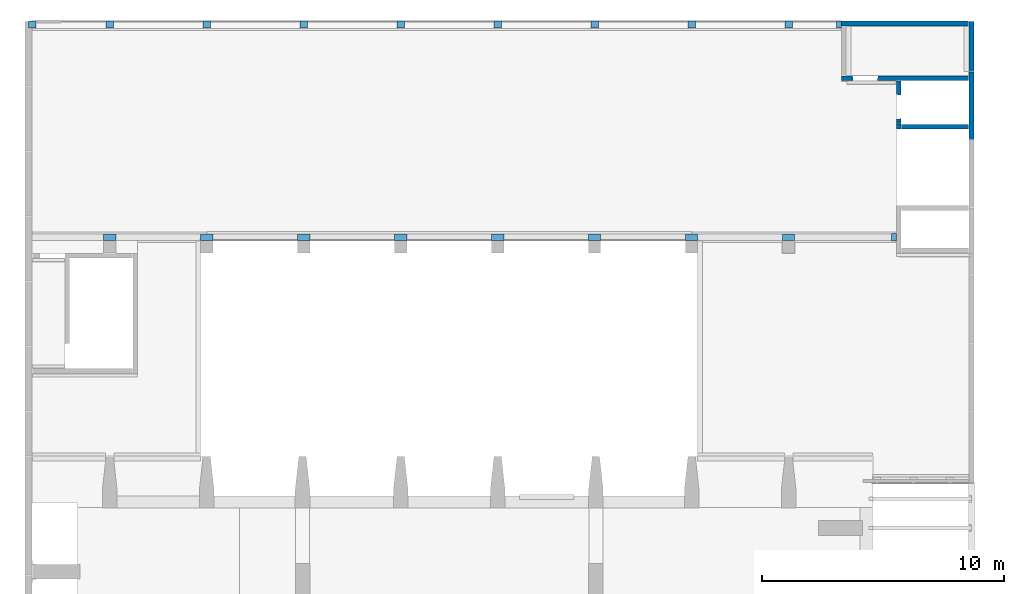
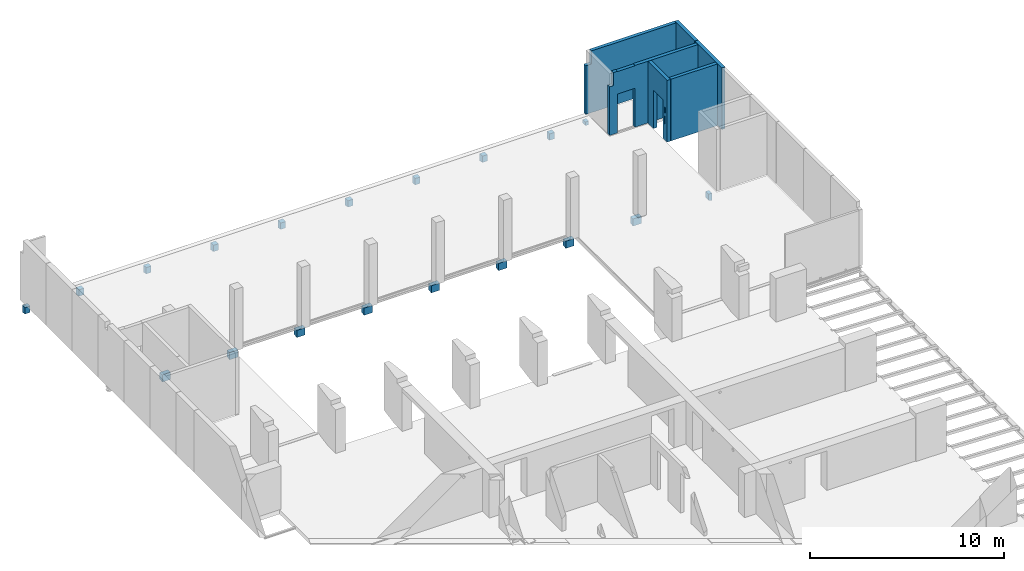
# One storey, part 22 of 27: 25 walls, 8 openings.
"""IFC2X3 building model written with IfcOpenShell, lengths in millimetres."""

import ifcopenshell
import ifcopenshell.guid

model = None  # the IFC model being written
_history = None  # IfcOwnerHistory: only IFC2X3 demands one
_inside = {}  # id of a spatial element -> (the spatial element, [elements in it])
_under = {}  # id of a project, library or spatial element -> (it, [spatial elements below it])
_declared = {}  # id of a project -> (the project, [libraries it declares])
_typed = {}  # id of a type object -> (the type object, [elements of that type])
_made_of = {}  # id of a material, layer set ... -> (it, [elements and type objects made of it])


def new_model(schema):
    """Start an empty IFC model of exactly this schema.

    Asked for "IFC4X3", IfcOpenShell would pick the latest addendum, in which some entities
    have other attributes; the version numbers below select the first issue.
    IFC2X3 requires an IfcOwnerHistory on every rooted entity: one is made here for all.
    """
    global model, _history
    if schema == "IFC4X3":
        model = ifcopenshell.file(schema_version=(4, 3, 0, 0))
    else:
        model = ifcopenshell.file(schema=schema)
    _inside.clear()
    _under.clear()
    _declared.clear()
    _typed.clear()
    _made_of.clear()
    _history = None
    if model.schema == "IFC2X3":
        org = make("IfcOrganization", Name="unknown")
        user = make(
            "IfcPersonAndOrganization",
            ThePerson=make("IfcPerson", FamilyName="unknown"),
            TheOrganization=org,
        )
        app = make(
            "IfcApplication",
            ApplicationDeveloper=org,
            Version="unknown",
            ApplicationFullName="unknown",
            ApplicationIdentifier="unknown",
        )
        _history = make(
            "IfcOwnerHistory",
            OwningUser=user,
            OwningApplication=app,
            ChangeAction="ADDED",
            CreationDate=0,
        )
    return model


def make(cls, **values):
    """One entity of the class cls with the attributes given. An attribute that is None is left unset."""
    return model.create_entity(
        cls, **{name: value for name, value in values.items() if value is not None}
    )


def entity(cls, *values):
    """Any entity or typed value of the class cls, its attributes in the order of the schema. None: left unset."""
    e = model.create_entity(cls)
    for i, value in enumerate(values):
        if value is not None:
            e[i] = value
    return e


def rooted(cls, **values):
    """An entity with a GlobalId (a new one), such as an element, a storey or a relation."""
    return make(cls, GlobalId=ifcopenshell.guid.new(), OwnerHistory=_history, **values)


def si_unit(unit_type, name, prefix=None):
    """IfcSIUnit, for example si_unit("LENGTHUNIT", "METRE", prefix="MILLI")."""
    return make("IfcSIUnit", UnitType=unit_type, Prefix=prefix, Name=name)


def converted_unit(unit_type, name, factor, base, dimensions=None, offset=None):
    """IfcConversionBasedUnit, such as the inch: factor (a typed value) times the base unit."""
    return make(
        "IfcConversionBasedUnit"
        if offset is None
        else "IfcConversionBasedUnitWithOffset",
        ConversionOffset=offset,
        Dimensions=None
        if dimensions is None
        else entity("IfcDimensionalExponents", *dimensions),
        UnitType=unit_type,
        Name=name,
        ConversionFactor=make(
            "IfcMeasureWithUnit", ValueComponent=factor, UnitComponent=base
        ),
    )


def derived_unit(unit_type, elements):
    """IfcDerivedUnit: a product of units, each with its exponent."""
    return make(
        "IfcDerivedUnit",
        Elements=[
            make("IfcDerivedUnitElement", Unit=unit, Exponent=power)
            for unit, power in elements
        ],
        UnitType=unit_type,
    )


def assignment(units):
    """IfcUnitAssignment: the units of a project."""
    return None if units is None else make("IfcUnitAssignment", Units=units)


def point(xyz):
    """IfcCartesianPoint."""
    return None if xyz is None else make("IfcCartesianPoint", Coordinates=xyz)


def direction(xyz):
    """IfcDirection."""
    return None if xyz is None else make("IfcDirection", DirectionRatios=xyz)


def frame(location, z_axis=None, x_axis=None):
    """IfcAxis2Placement3D, a coordinate frame: its origin and axes. An axis left out is left unset."""
    return make(
        "IfcAxis2Placement3D",
        Location=point(location),
        Axis=direction(z_axis),
        RefDirection=direction(x_axis),
    )


def frame_2d(location, x_axis=None):
    """IfcAxis2Placement2D, a coordinate frame in the plane: its origin and x axis."""
    return make(
        "IfcAxis2Placement2D", Location=point(location), RefDirection=direction(x_axis)
    )


def origin():
    """The frame at (0, 0, 0) with its axes left unset."""
    return frame((0.0, 0.0, 0.0))


def origin_2d_with_axis():
    """The frame at (0, 0) in the plane with the x axis (1, 0) written out."""
    return frame_2d((0.0, 0.0), x_axis=(1.0, 0.0))


def place(relative_to, where):
    """IfcLocalPlacement: puts the frame where relative to a parent placement (None: the world)."""
    return make(
        "IfcLocalPlacement", PlacementRelTo=relative_to, RelativePlacement=where
    )


def context(
    kind, dimensions, precision=None, world=None, true_north=None, identifier=None
):
    """IfcGeometricRepresentationContext, for example the 3D "Model" context."""
    return make(
        "IfcGeometricRepresentationContext",
        ContextIdentifier=identifier,
        ContextType=kind,
        CoordinateSpaceDimension=dimensions,
        Precision=precision,
        WorldCoordinateSystem=world,
        TrueNorth=true_north,
    )


def subcontext(parent, identifier, kind, view, scale=None):
    """IfcGeometricRepresentationSubContext, for example "Body" below "Model"."""
    return make(
        "IfcGeometricRepresentationSubContext",
        ContextIdentifier=identifier,
        ContextType=kind,
        ParentContext=parent,
        TargetScale=scale,
        TargetView=view,
    )


def project(units=None, contexts=None):
    """IfcProject with its units and contexts."""
    return rooted(
        "IfcProject",
        Name="project",
        RepresentationContexts=contexts,
        UnitsInContext=assignment(units),
    )


def spatial(cls, under=None, at=None, **own):
    """A site, building, storey or space (cls), placed at a placement, below another one or the project."""
    s = rooted(cls, ObjectPlacement=at, **own)
    if under is not None:
        _under.setdefault(under.id(), (under, []))[1].append(s)
    return s


def profile(cls, at=None, kind="AREA", **sizes):
    """A parametric profile (cls). Its sizes go by their IFC names, for example OverallWidth=200.0."""
    return make(cls, ProfileType=kind, Position=at, **sizes)


def rectangle(**sizes):
    """IfcRectangleProfileDef."""
    return profile("IfcRectangleProfileDef", **sizes)


def extrude(swept, where, along, depth):
    """IfcExtrudedAreaSolid: the profile swept, set in the frame where, extruded along a direction by depth."""
    return make(
        "IfcExtrudedAreaSolid",
        SweptArea=swept,
        Position=where,
        ExtrudedDirection=direction(along),
        Depth=depth,
    )


def faces_of(points, faces, orient=None, outer=None):
    """IfcFace entities. A face is a list of loops; a loop is a list of indices into points, from 0.

    orient and outer hold one flag for each loop. By default every Orientation is true, the
    first loop of a face is its IfcFaceOuterBound and the others are IfcFaceBound.
    """
    made = []
    for i, loops in enumerate(faces):
        bounds = []
        for j, loop in enumerate(loops):
            is_outer = j == 0 if outer is None else outer[i][j]
            bounds.append(
                make(
                    "IfcFaceOuterBound" if is_outer else "IfcFaceBound",
                    Bound=make("IfcPolyLoop", Polygon=[points[k] for k in loop]),
                    Orientation=True if orient is None else orient[i][j],
                )
            )
        made.append(make("IfcFace", Bounds=bounds))
    return made


def faceted_brep(points, faces, orient=None, outer=None, voids=None):
    """IfcFacetedBrep: a solid bounded by flat faces; with voids (closed shells), ...WithVoids."""
    shared = [point(p) for p in points]
    hull = make("IfcClosedShell", CfsFaces=faces_of(shared, faces, orient, outer))
    if voids is None:
        return make("IfcFacetedBrep", Outer=hull)
    return make(
        "IfcFacetedBrepWithVoids",
        Outer=hull,
        Voids=[
            make(cls, CfsFaces=faces_of(shared, fs, o, b)) for cls, fs, o, b in voids
        ],
    )


def shape(context_of_items, identifier, shape_type, items):
    """IfcShapeRepresentation: the items that make up one representation, for example the "Body"."""
    return make(
        "IfcShapeRepresentation",
        ContextOfItems=context_of_items,
        RepresentationIdentifier=identifier,
        RepresentationType=shape_type,
        Items=items,
    )


def material(Name=None, Category=None):
    """IfcMaterial."""
    return make("IfcMaterial", Name=Name, Category=Category)


def layer(
    of_material, thickness, ventilated=None, Name=None, Category=None, Priority=None
):
    """IfcMaterialLayer: one layer of a wall or slab, of a material (None: an air gap)."""
    return make(
        "IfcMaterialLayer",
        Material=of_material,
        LayerThickness=thickness,
        IsVentilated=ventilated,
        Name=Name,
        Category=Category,
        Priority=Priority,
    )


def layer_set(layers, Name=None):
    """IfcMaterialLayerSet."""
    return make("IfcMaterialLayerSet", MaterialLayers=layers, LayerSetName=Name)


def layer_usage(for_layer_set, set_direction, sense, offset, extent=None):
    """IfcMaterialLayerSetUsage: how a layer set lies in its element."""
    return make(
        "IfcMaterialLayerSetUsage",
        ForLayerSet=for_layer_set,
        LayerSetDirection=set_direction,
        DirectionSense=sense,
        OffsetFromReferenceLine=offset,
        ReferenceExtent=extent,
    )


def made_of(thing, what):
    """Note that an element or type object is made of a material, layer set ...; save() writes the relation."""
    if what is not None:
        _made_of.setdefault(what.id(), (what, []))[1].append(thing)
    return thing


def type_object(cls, material=None, **own):
    """A type object (cls), such as IfcWallType, which elements share."""
    return made_of(rooted(cls, **own), material)


def element(
    cls,
    number,
    at=None,
    inside=None,
    cuts=None,
    type_object=None,
    material=None,
    context=None,
    identifier="Body",
    shape_type=None,
    held_by="IfcProductDefinitionShape",
    body=None,
    shapes=None,
    **own,
):
    """One element of the class cls, such as IfcWall. Its Tag is "e" and its number.

    at: its placement. inside: the storey or other place that contains it. cuts: it is an
    opening in that element (IfcRelVoidsElement). A single representation is given by context,
    identifier, shape_type and body (its items); several are given by shapes. held_by: the class
    of the entity that holds the representations. save() writes the other relations.
    """
    e = rooted(cls, Tag="e%d" % number, ObjectPlacement=at, **own)
    if body is not None:
        shapes = [shape(context, identifier, shape_type, body)]
    if shapes is not None:
        e.Representation = make(held_by, Representations=shapes)
    if inside is not None:
        _inside.setdefault(inside.id(), (inside, []))[1].append(e)
    if cuts is not None:
        rooted(
            "IfcRelVoidsElement", RelatingBuildingElement=cuts, RelatedOpeningElement=e
        )
    if type_object is not None:
        _typed.setdefault(type_object.id(), (type_object, []))[1].append(e)
    return made_of(e, material)


def aggregate(whole, parts):
    """IfcRelAggregates: a whole, such as a stair, and the parts it consists of."""
    return rooted("IfcRelAggregates", RelatingObject=whole, RelatedObjects=parts)


def save(model, path):
    """Write the relations noted so far, then the file.

    IfcRelAggregates (storeys below a building ...), IfcRelContainedInSpatialStructure (elements
    in a storey), IfcRelDefinesByType, IfcRelAssociatesMaterial and IfcRelDeclares: one each for
    every whole, place, type object, material and project.
    """
    for whole, parts in _under.values():
        aggregate(whole, parts)
    for where, things in _inside.values():
        rooted(
            "IfcRelContainedInSpatialStructure",
            RelatedElements=things,
            RelatingStructure=where,
        )
    for kind, things in _typed.values():
        rooted("IfcRelDefinesByType", RelatedObjects=things, RelatingType=kind)
    for what, things in _made_of.values():
        rooted("IfcRelAssociatesMaterial", RelatedObjects=things, RelatingMaterial=what)
    for by, libraries in _declared.values():
        rooted("IfcRelDeclares", RelatingContext=by, RelatedDefinitions=libraries)
    model.write(path)


model = new_model("IFC2X3")

# Units and contexts
model_context = context("Model", 3, precision=0.01, world=origin(), true_north=direction((6.12303176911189e-17, 1.0)))
body_context = subcontext(model_context, "Body", "Model", "MODEL_VIEW")
ifc_project = project(units=[si_unit("LENGTHUNIT", "METRE", prefix="MILLI"), si_unit("AREAUNIT", "SQUARE_METRE"), si_unit("VOLUMEUNIT", "CUBIC_METRE"), converted_unit("PLANEANGLEUNIT", "DEGREE", entity("IfcRatioMeasure", 0.0174532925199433), si_unit("PLANEANGLEUNIT", "RADIAN"), dimensions=[0, 0, 0, 0, 0, 0, 0]), si_unit("MASSUNIT", "GRAM", prefix="KILO"), derived_unit("MASSDENSITYUNIT", [(si_unit("MASSUNIT", "GRAM", prefix="KILO"), 1), (si_unit("LENGTHUNIT", "METRE"), -3)]), si_unit("TIMEUNIT", "SECOND"), si_unit("FREQUENCYUNIT", "HERTZ"), si_unit("THERMODYNAMICTEMPERATUREUNIT", "DEGREE_CELSIUS"), derived_unit("THERMALTRANSMITTANCEUNIT", [(si_unit("MASSUNIT", "GRAM", prefix="KILO"), 1), (si_unit("THERMODYNAMICTEMPERATUREUNIT", "KELVIN"), -1), (si_unit("TIMEUNIT", "SECOND"), -3)]), derived_unit("VOLUMETRICFLOWRATEUNIT", [(si_unit("LENGTHUNIT", "METRE"), 3), (si_unit("TIMEUNIT", "SECOND"), -1)]), si_unit("ELECTRICCURRENTUNIT", "AMPERE"), si_unit("ELECTRICVOLTAGEUNIT", "VOLT"), si_unit("POWERUNIT", "WATT"), si_unit("FORCEUNIT", "NEWTON", prefix="KILO"), si_unit("ILLUMINANCEUNIT", "LUX"), si_unit("LUMINOUSFLUXUNIT", "LUMEN"), si_unit("LUMINOUSINTENSITYUNIT", "CANDELA"), derived_unit("USERDEFINED", [(si_unit("MASSUNIT", "GRAM", prefix="KILO"), -1), (si_unit("LENGTHUNIT", "METRE"), -2), (si_unit("TIMEUNIT", "SECOND"), 3), (si_unit("LUMINOUSFLUXUNIT", "LUMEN"), 1)]), derived_unit("LINEARVELOCITYUNIT", [(si_unit("LENGTHUNIT", "METRE"), 1), (si_unit("TIMEUNIT", "SECOND"), -1)]), si_unit("PRESSUREUNIT", "PASCAL"), derived_unit("USERDEFINED", [(si_unit("LENGTHUNIT", "METRE"), -2), (si_unit("MASSUNIT", "GRAM", prefix="KILO"), 1), (si_unit("TIMEUNIT", "SECOND"), -2)])], contexts=[model_context])

# Site, building, storey
site_placement = place(None, origin())
site = spatial("IfcSite", under=ifc_project, at=site_placement, Name="Default", CompositionType="ELEMENT")
building_placement = place(site_placement, origin())
building = spatial("IfcBuilding", under=site, at=building_placement, Name="niet gebruiken", CompositionType="ELEMENT")
storey_placement = place(building_placement, frame((0.0, 0.0, 6000.0)))
storey = spatial("IfcBuildingStorey", under=building, at=storey_placement, Name="01 eerste verdieping", CompositionType="ELEMENT", Elevation=6000.0)

# Walls
ifc_material = material(Name="NLRS_f2_beton prefab")
ifc_layer_1 = layer(ifc_material, 200.0)
ifc_layer_set_1 = layer_set([ifc_layer_1], Name="Basic Wall:NLRS_21.21_WA_beton prefab d=200_gen")
ifc_layer_usage_1 = layer_usage(ifc_layer_set_1, "AXIS2", "NEGATIVE", 100.0)
wall_type_1 = type_object("IfcWallType", Name="Basic Wall:NLRS_21.21_WA_beton prefab d=200_gen", PredefinedType="STANDARD", material=ifc_layer_set_1)
wall_1_placement = place(storey_placement, frame((163290.0, 47920.0, -50.0), z_axis=(0.0, 0.0, 1.0), x_axis=(0.0, 1.0, 0.0)))
element("IfcWallStandardCase", 1, at=wall_1_placement, inside=storey, type_object=wall_type_1, material=ifc_layer_usage_1, Name="Basic Wall:NLRS_21.21_WA_beton prefab d=200_gen", ObjectType="Basic Wall:NLRS_21.21_WA_beton prefab d=200_gen", context=body_context, shape_type="SweptSolid", body=[
    extrude(rectangle(XDim=2780.0, YDim=200.000000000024, at=frame_2d((1390.0, 0.0), x_axis=(-1.0, 0.0))), origin(), (0.0, 0.0, 1.0), 3880.0),
])
ifc_layer_usage_2 = layer_usage(ifc_layer_set_1, "AXIS2", "NEGATIVE", 100.0)
wall_2_placement = place(storey_placement, frame((163290.0, 50720.0, -50.0), z_axis=(0.0, 0.0, 1.0), x_axis=(0.0, 1.0, 0.0)))
element("IfcWallStandardCase", 2, at=wall_2_placement, inside=storey, type_object=wall_type_1, material=ifc_layer_usage_2, Name="Basic Wall:NLRS_21.21_WA_beton prefab d=200_gen", ObjectType="Basic Wall:NLRS_21.21_WA_beton prefab d=200_gen", context=body_context, shape_type="SweptSolid", body=[
    extrude(rectangle(XDim=2060.00000000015, YDim=200.000000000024, at=frame_2d((1030.00000000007, 0.0), x_axis=(-1.0, 0.0))), origin(), (0.0, 0.0, 1.0), 3880.0),
])
ifc_layer_2 = layer(ifc_material, 200.0)
ifc_layer_set_2 = layer_set([ifc_layer_2], Name="Basic Wall:NLRS_22.21_WA_beton prefab d=200_gen")
ifc_layer_usage_3 = layer_usage(ifc_layer_set_2, "AXIS2", "NEGATIVE", 100.0)
wall_type_2 = type_object("IfcWallType", Name="Basic Wall:NLRS_22.21_WA_beton prefab d=200_gen", PredefinedType="STANDARD", material=ifc_layer_set_2)
wall_3_placement = place(storey_placement, frame((160410.0, 48450.0, -50.0)))
element("IfcWallStandardCase", 3, at=wall_3_placement, inside=storey, type_object=wall_type_2, material=ifc_layer_usage_3, Name="Basic Wall:NLRS_22.21_WA_beton prefab d=200_gen", ObjectType="Basic Wall:NLRS_22.21_WA_beton prefab d=200_gen", context=body_context, shape_type="SweptSolid", body=[
    extrude(rectangle(XDim=2759.99999999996, YDim=200.000000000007, at=frame_2d((1379.99999999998, -2.27373675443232e-13), x_axis=(-1.0, 0.0))), origin(), (0.0, 0.0, 1.0), 3880.0),
])

# Wall, openings
ifc_layer_usage_4 = layer_usage(ifc_layer_set_2, "AXIS2", "NEGATIVE", 100.0)
wall_4_placement = place(storey_placement, frame((157920.0, 50450.0, -50.0)))
wall_4 = element("IfcWallStandardCase", 4, at=wall_4_placement, inside=storey, type_object=wall_type_2, material=ifc_layer_usage_4, Name="Basic Wall:NLRS_22.21_WA_beton prefab d=200_gen", ObjectType="Basic Wall:NLRS_22.21_WA_beton prefab d=200_gen", context=body_context, shape_type="SweptSolid", body=[
    extrude(rectangle(XDim=5249.99999999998, YDim=200.000000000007, at=frame_2d((2624.99999999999, -8.59756710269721e-13), x_axis=(-1.0, 0.0))), origin(), (0.0, 0.0, 1.0), 3880.0),
])
opening_1_placement = place(wall_4_placement, origin())
element("IfcOpeningElement", 5, at=opening_1_placement, cuts=wall_4, Name="Basic Wall:NLRS_22.21_WA_beton prefab d=200_gen", ObjectType="Opening", context=body_context, shape_type="SweptSolid", body=[
    extrude(rectangle(XDim=2450.0, YDim=1016.00000000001, at=origin_2d_with_axis()), frame((989.0, -100.0, 1225.0), z_axis=(0.0, 1.0, 0.0), x_axis=(0.0, 0.0, -1.0)), (0.0, 0.0, 1.0), 200.000000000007),
])
opening_2_placement = place(wall_4_placement, origin())
element("IfcOpeningElement", 6, at=opening_2_placement, cuts=wall_4, Name="Basic Wall:NLRS_22.21_WA_beton prefab d=200_gen", ObjectType="Opening", context=body_context, shape_type="SweptSolid", body=[
    extrude(rectangle(XDim=820.0, YDim=219.999999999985, at=frame_2d((0.0, 1.73301373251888e-11), x_axis=(1.0, 0.0))), frame((110.0, -100.0, 3470.0), z_axis=(0.0, 1.0, 0.0), x_axis=(0.0, 0.0, -1.0)), (0.0, 0.0, 1.0), 200.000000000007),
])
opening_3_placement = place(wall_4_placement, frame((469.0, -100.0, 0.0)))
element("IfcOpeningElement", 7, at=opening_3_placement, cuts=wall_4, Name="Basic Wall:NLRS_22.21_WA_beton prefab d=200_gen", ObjectType="Opening", context=body_context, shape_type="Brep", body=[
    faceted_brep([(12.0, 0.0, 2450.0), (12.0, 0.0, 0.0), (1028.0, 0.0, 0.0), (1028.0, 0.0, 2450.0), (0.0, 200.0, 2462.0), (1040.0, 200.0, 2462.0), (1040.0, 200.0, 0.0), (0.0, 200.0, 0.0)], [[[0, 1, 2, 3]], [[4, 5, 6, 7]], [[4, 0, 3, 5]], [[5, 3, 2, 6]], [[6, 2, 1, 7]], [[7, 1, 0, 4]]]),
])
opening_4_placement = place(wall_4_placement, origin())
element("IfcOpeningElement", 8, at=opening_4_placement, cuts=wall_4, Name="Basic Wall:NLRS_22.21_WA_beton prefab d=200_gen", ObjectType="Opening", context=body_context, shape_type="SweptSolid", body=[
    extrude(rectangle(XDim=19.9999999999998, YDim=1040.00000000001, at=frame_2d((0.0, 1.72803993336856e-11), x_axis=(1.0, 0.0))), frame((989.0, -100.0, 3870.0), z_axis=(0.0, 1.0, 0.0), x_axis=(0.0, 0.0, -1.0)), (0.0, 0.0, 1.0), 200.000000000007),
])

# Wall, opening
ifc_layer_usage_5 = layer_usage(ifc_layer_set_2, "AXIS2", "NEGATIVE", 100.0)
wall_5_placement = place(storey_placement, frame((157800.0, 52700.0, -50.0)))
wall_5 = element("IfcWallStandardCase", 9, at=wall_5_placement, inside=storey, type_object=wall_type_2, material=ifc_layer_usage_5, Name="Basic Wall:NLRS_22.21_WA_beton prefab d=200_gen", ObjectType="Basic Wall:NLRS_22.21_WA_beton prefab d=200_gen", context=body_context, shape_type="SweptSolid", body=[
    extrude(rectangle(XDim=5370.00000000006, YDim=200.000000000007, at=frame_2d((2685.00000000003, 0.0), x_axis=(-1.0, 0.0))), origin(), (0.0, 0.0, 1.0), 3880.0),
])
opening_5_placement = place(wall_5_placement, origin())
element("IfcOpeningElement", 10, at=opening_5_placement, cuts=wall_5, Name="Basic Wall:NLRS_22.21_WA_beton prefab d=200_gen", ObjectType="Opening", context=body_context, shape_type="SweptSolid", body=[
    extrude(rectangle(XDim=820.0, YDim=339.999999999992, at=origin_2d_with_axis()), frame((170.0, -100.0, 3470.0), z_axis=(0.0, 1.0, 0.0), x_axis=(0.0, 0.0, -1.0)), (0.0, 0.0, 1.0), 200.000000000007),
])

# Wall, openings
ifc_layer_usage_6 = layer_usage(ifc_layer_set_2, "AXIS2", "NEGATIVE", 100.0)
wall_6_placement = place(storey_placement, frame((160290.0, 48350.0, -50.0), z_axis=(0.0, 0.0, 1.0), x_axis=(0.0, 1.0, 0.0)))
wall_6 = element("IfcWallStandardCase", 11, at=wall_6_placement, inside=storey, type_object=wall_type_2, material=ifc_layer_usage_6, Name="Basic Wall:NLRS_22.21_WA_beton prefab d=200_gen", ObjectType="Basic Wall:NLRS_22.21_WA_beton prefab d=200_gen", context=body_context, shape_type="SweptSolid", body=[
    extrude(rectangle(XDim=1980.0, YDim=200.000000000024, at=frame_2d((990.0, 9.02389274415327e-13), x_axis=(-1.0, 0.0))), origin(), (0.0, 0.0, 1.0), 3880.0),
])
opening_6_placement = place(wall_6_placement, frame((418.0, 100.0, -20.0)))
element("IfcOpeningElement", 12, at=opening_6_placement, cuts=wall_6, Name="Basic Wall:NLRS_22.21_WA_beton prefab d=200_gen", ObjectType="Opening", context=body_context, shape_type="Brep", body=[
    faceted_brep([(992.0, -200.0, 2410.0), (12.0, -200.0, 2410.0), (12.0, -200.0, 0.0), (992.0, -200.0, 0.0), (1004.0, 0.0, 2422.0), (1004.0, 0.0, 0.0), (0.0, 0.0, 0.0), (0.0, 0.0, 2422.0)], [[[0, 1, 2, 3]], [[4, 5, 6, 7]], [[4, 7, 1, 0]], [[7, 6, 2, 1]], [[6, 5, 3, 2]], [[5, 4, 0, 3]]]),
])
opening_7_placement = place(wall_6_placement, origin())
element("IfcOpeningElement", 13, at=opening_7_placement, cuts=wall_6, Name="Basic Wall:NLRS_22.21_WA_beton prefab d=200_gen", ObjectType="Opening", context=body_context, shape_type="SweptSolid", body=[
    extrude(rectangle(XDim=505.000000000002, YDim=75.0000000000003, at=frame_2d((0.0, 0.0), x_axis=(0.0, 1.0))), frame((250.0, -100.0, 1252.50000000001), z_axis=(0.0, 1.0, 0.0), x_axis=(1.0, 0.0, 0.0)), (0.0, 0.0, 1.0), 200.000000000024),
])
opening_8_placement = place(wall_6_placement, origin())
element("IfcOpeningElement", 14, at=opening_8_placement, cuts=wall_6, Name="Basic Wall:NLRS_22.21_WA_beton prefab d=200_gen", ObjectType="Opening", context=body_context, shape_type="SweptSolid", body=[
    extrude(rectangle(XDim=370.000000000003, YDim=100.000000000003, at=frame_2d((0.0, 0.0), x_axis=(0.0, 1.0))), frame((250.0, -100.0, 1885.0), z_axis=(0.0, 1.0, 0.0), x_axis=(1.0, 0.0, 0.0)), (0.0, 0.0, 1.0), 200.000000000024),
])

# Walls
wall_type_3 = type_object("IfcWallType", Name="NLRS_21.21_SF_WPB_oplegnok prefabbeton_gen:450x275 met afschuining 15gr", PredefinedType="NOTDEFINED", material=ifc_material)
for number, where, name in (
    (15, (147500.0, 43750.0, -902.0), "NLRS_21.21_SF_WPB_oplegnok prefabbeton_gen:450x275 met afschuining 15gr"),
    (16, (143500.0, 43750.0, -902.0), "NLRS_21.21_SF_WPB_oplegnok prefabbeton_gen:450x275 met afschuining 15gr"),
    (17, (139500.0, 43750.0, -902.0), "NLRS_21.21_SF_WPB_oplegnok prefabbeton_gen:450x275 met afschuining 15gr"),
    (18, (135500.0, 43750.0, -902.0), "NLRS_21.21_SF_WPB_oplegnok prefabbeton_gen:450x275 met afschuining 15gr"),
    (19, (131500.0, 43750.0, -902.0), "NLRS_21.21_SF_WPB_oplegnok prefabbeton_gen:450x275 met afschuining 15gr"),
    (20, (151500.0, 43750.0, -902.0), "NLRS_21.21_SF_WPB_oplegnok prefabbeton_gen:450x275 met afschuining 15gr"),
    (21, (155500.0, 43750.0, -902.0), "NLRS_21.21_SF_WPB_oplegnok prefabbeton_gen:450x275 met afschuining 15gr"),
    (22, (127500.0, 43750.0, -902.0), "NLRS_21.21_SF_WPB_oplegnok prefabbeton_gen:450x275 met afschuining 15gr"),
):
    element("IfcWall", number, at=place(storey_placement, frame(where)), inside=storey, type_object=wall_type_3, material=ifc_material, Name=name, ObjectType="NLRS_21.21_SF_WPB_oplegnok prefabbeton_gen:450x275 met afschuining 15gr", context=body_context, shape_type="Brep", body=[
        faceted_brep([(0.0, 0.0, 450.0), (0.0, 275.0, 450.0), (0.0, 275.0, 48.4899196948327), (0.0, 0.0, 0.0), (500.0, 0.0, 450.0), (500.0, 0.0, 0.0), (500.0, 275.0, 48.4899196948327), (500.0, 275.0, 450.0)], [[[0, 1, 2, 3]], [[4, 5, 6, 7]], [[3, 5, 4, 0]], [[1, 7, 6, 2]], [[0, 4, 7, 1]], [[2, 6, 5, 3]]]),
    ])
wall_type_4 = type_object("IfcWallType", Name="NLRS_21.21_SF_WPB_oplegnok prefabbeton_gen:450x200 met afschuining 15gr", PredefinedType="NOTDEFINED", material=ifc_material)
wall_7_placement = place(storey_placement, frame((159990.0, 43740.0, -902.0), z_axis=(0.0, 0.0, 1.0), x_axis=(0.0, 1.0, 0.0)))
element("IfcWall", 23, at=wall_7_placement, inside=storey, type_object=wall_type_4, material=ifc_material, Name="NLRS_21.21_SF_WPB_oplegnok prefabbeton_gen:450x200 met afschuining 15gr", ObjectType="NLRS_21.21_SF_WPB_oplegnok prefabbeton_gen:450x200 met afschuining 15gr", context=body_context, shape_type="Brep", body=[
    faceted_brep([(0.0, -200.0, 450.0), (0.0, 0.0, 450.0), (0.0, 0.0, 49.8656005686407), (0.0, -200.0, 0.0), (300.0, -200.0, 450.0), (300.0, -200.0, 0.0), (300.0, 0.0, 49.8656005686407), (300.0, 0.0, 450.0)], [[[0, 1, 2, 3]], [[4, 5, 6, 7]], [[3, 5, 4, 0]], [[1, 7, 6, 2]], [[0, 4, 7, 1]], [[2, 6, 5, 3]]]),
])
wall_type_5 = type_object("IfcWallType", Name="NLRS_21.21_SF_WPB_oplegnok prefabbeton_gen:450x290 met afschuining 15gr", PredefinedType="NOTDEFINED", material=ifc_material)
for number, where, name in (
    (24, (127600.0, 52510.0, -902.0), "NLRS_21.21_SF_WPB_oplegnok prefabbeton_gen:450x290 met afschuining 15gr"),
    (25, (131600.0, 52510.0, -902.0), "NLRS_21.21_SF_WPB_oplegnok prefabbeton_gen:450x290 met afschuining 15gr"),
    (26, (135600.0, 52510.0, -902.0), "NLRS_21.21_SF_WPB_oplegnok prefabbeton_gen:450x290 met afschuining 15gr"),
    (27, (139600.0, 52510.0, -902.0), "NLRS_21.21_SF_WPB_oplegnok prefabbeton_gen:450x290 met afschuining 15gr"),
    (28, (143600.0, 52510.0, -902.0), "NLRS_21.21_SF_WPB_oplegnok prefabbeton_gen:450x290 met afschuining 15gr"),
    (29, (147600.0, 52510.0, -902.0), "NLRS_21.21_SF_WPB_oplegnok prefabbeton_gen:450x290 met afschuining 15gr"),
    (30, (151600.0, 52510.0, -902.0), "NLRS_21.21_SF_WPB_oplegnok prefabbeton_gen:450x290 met afschuining 15gr"),
    (31, (155600.0, 52510.0, -902.0), "NLRS_21.21_SF_WPB_oplegnok prefabbeton_gen:450x290 met afschuining 15gr"),
):
    element("IfcWall", number, at=place(storey_placement, frame(where)), inside=storey, type_object=wall_type_5, material=ifc_material, Name=name, ObjectType="NLRS_21.21_SF_WPB_oplegnok prefabbeton_gen:450x290 met afschuining 15gr", context=body_context, shape_type="Brep", body=[
        faceted_brep([(0.0, 290.0, 450.0), (0.0, 290.0, 0.0), (0.0, 0.0, 51.1348244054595), (0.0, 0.0, 450.0), (300.0, 290.0, 450.0), (300.0, 0.0, 450.0), (300.0, 0.0, 51.1348244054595), (300.0, 290.0, 0.0)], [[[0, 1, 2, 3]], [[4, 5, 6, 7]], [[1, 0, 4, 7]], [[3, 2, 6, 5]], [[0, 3, 5, 4]], [[2, 1, 7, 6]]]),
    ])
wall_type_6 = type_object("IfcWallType", Name="NLRS_21.21_SF_WPB_oplegnok prefabbeton_gen:300x200", PredefinedType="NOTDEFINED", material=ifc_material)
wall_8_placement = place(storey_placement, frame((157720.0, 52515.0, -702.0), z_axis=(0.0, 0.0, 1.0), x_axis=(0.0, 1.0, 0.0)))
element("IfcWall", 32, at=wall_8_placement, inside=storey, type_object=wall_type_6, material=ifc_material, Name="NLRS_21.21_SF_WPB_oplegnok prefabbeton_gen:300x200", ObjectType="NLRS_21.21_SF_WPB_oplegnok prefabbeton_gen:300x200", context=body_context, shape_type="Brep", body=[
    faceted_brep([(275.0, -200.0, 250.0), (275.0, -200.0, 0.0), (275.0, 0.0, 49.8656005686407), (275.0, 0.0, 250.0), (0.0, -200.0, 250.0), (0.0, 0.0, 250.0), (0.0, 0.0, 49.8656005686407), (0.0, -200.0, 0.0)], [[[0, 1, 2, 3]], [[4, 5, 6, 7]], [[1, 0, 4, 7]], [[3, 2, 6, 5]], [[0, 3, 5, 4]], [[2, 1, 7, 6]]]),
])
wall_type_7 = type_object("IfcWallType", Name="NLRS_21.21_SF_WPB_oplegnok prefabbeton_gen:450x290 met afschuining 15gr 2", PredefinedType="NOTDEFINED", material=ifc_material)
wall_9_placement = place(storey_placement, frame((124400.0, 52510.0, -902.0)))
element("IfcWall", 33, at=wall_9_placement, inside=storey, type_object=wall_type_7, material=ifc_material, Name="NLRS_21.21_SF_WPB_oplegnok prefabbeton_gen:450x290 met afschuining 15gr 2", ObjectType="NLRS_21.21_SF_WPB_oplegnok prefabbeton_gen:450x290 met afschuining 15gr 2", context=body_context, shape_type="Brep", body=[
    faceted_brep([(300.0, 290.0, 450.0), (300.0, 0.0, 450.0), (300.0, 0.0, 51.1348244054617), (300.0, 290.0, 0.0), (0.0, 290.0, 0.0), (0.0, 290.0, 450.0), (0.0, 0.0, 450.0), (0.0, 0.0, 51.1348244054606)], [[[0, 1, 2, 3]], [[4, 5, 0, 3]], [[6, 7, 2, 1]], [[5, 6, 1, 0]], [[7, 4, 3, 2]], [[5, 4, 7, 6]]]),
])

save(model, "model.ifc")
